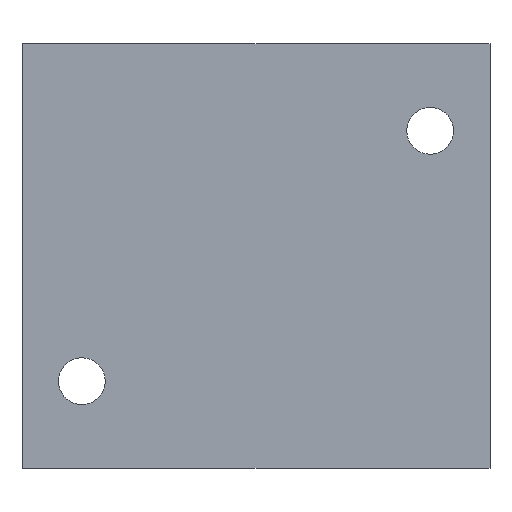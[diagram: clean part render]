
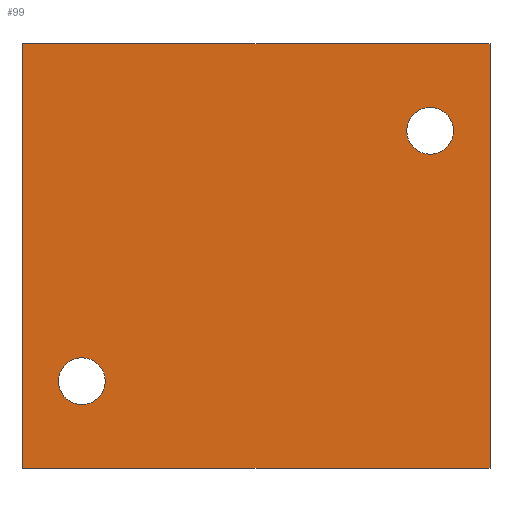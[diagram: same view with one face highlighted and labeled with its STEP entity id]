
A CAD part, front view. The second image highlights one B-rep face of the part: STEP entity #99.
In plain terms, the highlighted planar face has unit normal (0, -1, 0).
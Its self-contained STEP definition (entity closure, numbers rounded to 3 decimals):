
#99=ADVANCED_FACE('',(#235,#236,#237),#238,.T.);
#235=FACE_BOUND('',#487,.T.);
#236=FACE_BOUND('',#488,.T.);
#237=FACE_OUTER_BOUND('',#489,.T.);
#238=PLANE('',#490);
#487=EDGE_LOOP('',(#843));
#488=EDGE_LOOP('',(#844));
#489=EDGE_LOOP('',(#845,#846,#847,#848));
#490=AXIS2_PLACEMENT_3D('',#849,#850,#851);
#843=ORIENTED_EDGE('',*,*,#1302,.T.);
#844=ORIENTED_EDGE('',*,*,#1304,.T.);
#845=ORIENTED_EDGE('',*,*,#1315,.F.);
#846=ORIENTED_EDGE('',*,*,#1320,.F.);
#847=ORIENTED_EDGE('',*,*,#1307,.T.);
#848=ORIENTED_EDGE('',*,*,#1319,.T.);
#849=CARTESIAN_POINT('',(21.5,-18.0,19.5));
#850=DIRECTION('',(0.0,-1.0,0.0));
#851=DIRECTION('',(1.0,0.0,0.0));
#1302=EDGE_CURVE('',#1500,#1500,#1501,.T.);
#1304=EDGE_CURVE('',#1504,#1504,#1505,.T.);
#1307=EDGE_CURVE('',#1510,#1508,#1511,.T.);
#1315=EDGE_CURVE('',#1521,#1523,#1524,.T.);
#1319=EDGE_CURVE('',#1508,#1523,#1529,.T.);
#1320=EDGE_CURVE('',#1510,#1521,#1530,.T.);
#1500=VERTEX_POINT('',#1827);
#1501=CIRCLE('',#1828,2.15);
#1504=VERTEX_POINT('',#1831);
#1505=CIRCLE('',#1832,2.15);
#1508=VERTEX_POINT('',#1836);
#1510=VERTEX_POINT('',#1839);
#1511=LINE('',#1840,#1841);
#1521=VERTEX_POINT('',#1856);
#1523=VERTEX_POINT('',#1859);
#1524=LINE('',#1860,#1861);
#1529=LINE('',#1869,#1870);
#1530=LINE('',#1871,#1872);
#1827=CARTESIAN_POINT('',(13.85,-18.0,11.5));
#1828=AXIS2_PLACEMENT_3D('',#2131,#2132,#2133);
#1831=CARTESIAN_POINT('',(-13.85,-18.0,-11.5));
#1832=AXIS2_PLACEMENT_3D('',#2137,#2138,#2139);
#1836=CARTESIAN_POINT('',(-21.5,-18.0,19.5));
#1839=CARTESIAN_POINT('',(21.5,-18.0,19.5));
#1840=CARTESIAN_POINT('',(21.5,-18.0,19.5));
#1841=VECTOR('',#2142,1.0);
#1856=CARTESIAN_POINT('',(21.5,-18.0,-19.5));
#1859=CARTESIAN_POINT('',(-21.5,-18.0,-19.5));
#1860=CARTESIAN_POINT('',(21.5,-18.0,-19.5));
#1861=VECTOR('',#2152,1.0);
#1869=CARTESIAN_POINT('',(-21.5,-18.0,19.5));
#1870=VECTOR('',#2156,1.0);
#1871=CARTESIAN_POINT('',(21.5,-18.0,19.5));
#1872=VECTOR('',#2157,1.0);
#2131=CARTESIAN_POINT('',(16.,-18.0,11.5));
#2132=DIRECTION('',(0.0,1.0,0.0));
#2133=DIRECTION('',(-1.0,0.0,0.));
#2137=CARTESIAN_POINT('',(-16.,-18.0,-11.5));
#2138=DIRECTION('',(-0.0,1.0,0.0));
#2139=DIRECTION('',(1.0,0.0,0.0));
#2142=DIRECTION('',(-1.0,0.0,0.0));
#2152=DIRECTION('',(-1.0,0.0,0.0));
#2156=DIRECTION('',(0.0,0.0,-1.0));
#2157=DIRECTION('',(0.0,0.0,-1.0));
